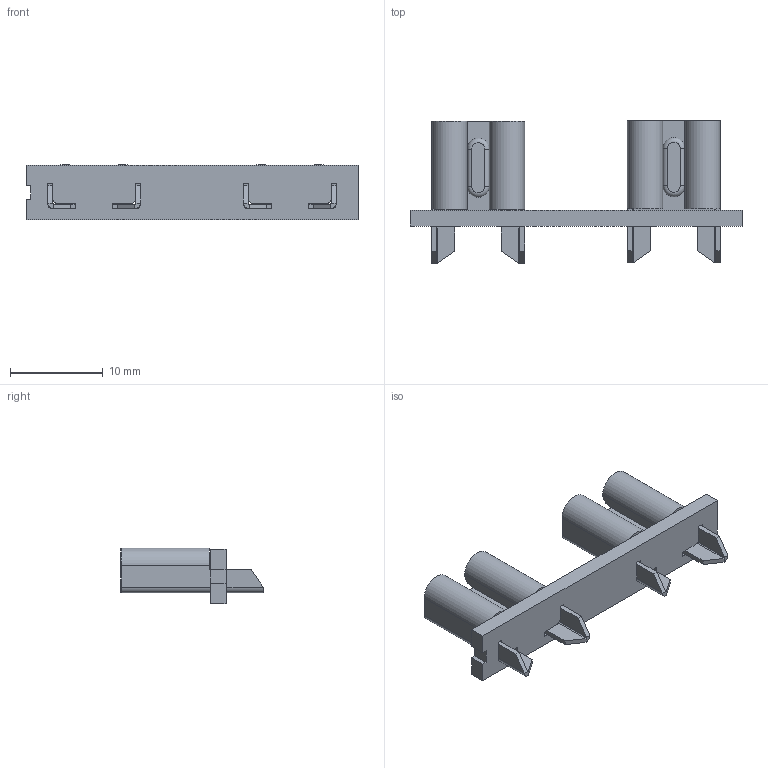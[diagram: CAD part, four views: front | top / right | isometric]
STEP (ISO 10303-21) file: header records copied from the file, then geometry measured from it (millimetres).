
FILE_DESCRIPTION(/* description */ ('STEP AP214'),/* implementation_level */ '2;1');
FILE_NAME(/* name */ 'CNX-02.stp',/* time_stamp */ '2025-07-01T14:42:14-07:00',/* author */ ('sebastianc'),/* organization */ (''),/* preprocessor_version */ 'ST-DEVELOPER v20.1',/* originating_system */ 'Autodesk Inventor 2026',/* authorisation */ '');
FILE_SCHEMA (('AUTOMOTIVE_DESIGN { 1 0 10303 214 3 1 1 }'));
Length unit declared in the file: millimetre
Products named in the file (3): 1939 2902; 4113 2902; 6309 2901
Assembly tree (3 placements, depth 2):
  1939 2902
    4113 2902  x2
    6309 2901
Bounding box: 35.8 x 15.35 x 6 mm (x, y, z)
Volume: 648.1 mm3; surface area: 1953.8 mm2
Topology: 3 solids, 3 shells, 160 faces, 392 edges, 240 vertices
Faces by surface type: plane 112, cylinder 40, torus 8
Entity records: 3129 total; most frequent: DIRECTION 524, CARTESIAN_POINT 522, ORIENTED_EDGE 512, EDGE_CURVE 256, LINE 200, VECTOR 200, AXIS2_PLACEMENT_3D 162, VERTEX_POINT 160
